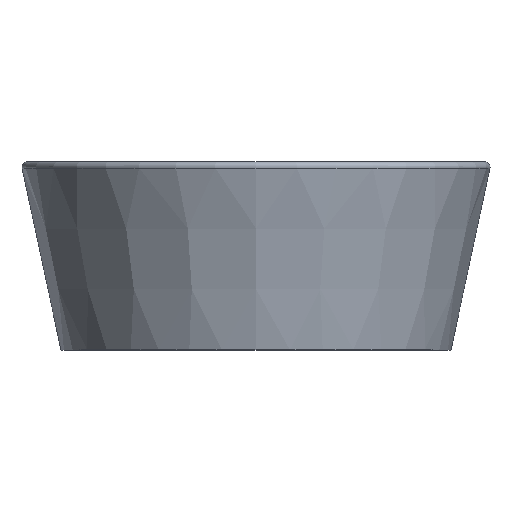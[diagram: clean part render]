
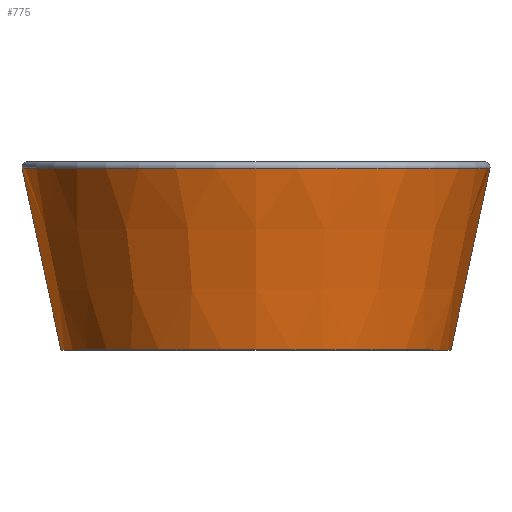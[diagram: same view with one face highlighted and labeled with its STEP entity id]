
A CAD part, top view. The second image highlights one B-rep face of the part: STEP entity #775.
In plain terms, the highlighted conical face has half-angle 12.095 degrees and reference radius 175 mm.
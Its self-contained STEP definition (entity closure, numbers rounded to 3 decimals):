
#12 = CARTESIAN_POINT ( 'NONE',  ( 0., 0., 0. ) ) ;
#57 = DIRECTION ( 'NONE',  ( 0., 1., 0. ) ) ;
#184 = CARTESIAN_POINT ( 'NONE',  ( 175., 0., 0. ) ) ;
#224 = CARTESIAN_POINT ( 'NONE',  ( 0., -4.838, 0. ) ) ;
#242 = AXIS2_PLACEMENT_3D ( 'NONE', #12, #945, #848 ) ;
#266 = ORIENTED_EDGE ( 'NONE', *, *, #878, .F. ) ;
#267 = VECTOR ( 'NONE', #575, 1000. ) ;
#275 = EDGE_LOOP ( 'NONE', ( #343, #431, #395, #266 ) ) ;
#280 = VERTEX_POINT ( 'NONE', #592 ) ;
#299 = LINE ( 'NONE', #656, #267 ) ;
#343 = ORIENTED_EDGE ( 'NONE', *, *, #1173, .T. ) ;
#392 = AXIS2_PLACEMENT_3D ( 'NONE', #888, #57, #442 ) ;
#395 = ORIENTED_EDGE ( 'NONE', *, *, #1047, .T. ) ;
#396 = FACE_OUTER_BOUND ( 'NONE', #275, .T. ) ;
#431 = ORIENTED_EDGE ( 'NONE', *, *, #799, .T. ) ;
#442 = DIRECTION ( 'NONE',  ( -1., 0., 0. ) ) ;
#455 = LINE ( 'NONE', #184, #860 ) ;
#575 = DIRECTION ( 'NONE',  ( -0.21, 0.978, 0. ) ) ;
#589 = CARTESIAN_POINT ( 'NONE',  ( 173.963, -4.838, 0. ) ) ;
#592 = CARTESIAN_POINT ( 'NONE',  ( 145., -140., 0. ) ) ;
#594 = VERTEX_POINT ( 'NONE', #1041 ) ;
#607 = DIRECTION ( 'NONE',  ( 0., -1., 0. ) ) ;
#656 = CARTESIAN_POINT ( 'NONE',  ( -175., 0., 0. ) ) ;
#661 = DIRECTION ( 'NONE',  ( 0.21, 0.978, 0. ) ) ;
#681 = CARTESIAN_POINT ( 'NONE',  ( -173.963, -4.838, 0. ) ) ;
#726 = CIRCLE ( 'NONE', #947, 173.963 ) ;
#765 = CONICAL_SURFACE ( 'NONE', #242, 175., 0.211 ) ;
#775 = ADVANCED_FACE ( 'NONE', ( #396 ), #765, .T. ) ;
#782 = DIRECTION ( 'NONE',  ( 1., 0., 0. ) ) ;
#799 = EDGE_CURVE ( 'NONE', #280, #899, #455, .T. ) ;
#848 = DIRECTION ( 'NONE',  ( -1., 0., 0. ) ) ;
#860 = VECTOR ( 'NONE', #661, 1000. ) ;
#878 = EDGE_CURVE ( 'NONE', #594, #1022, #299, .T. ) ;
#888 = CARTESIAN_POINT ( 'NONE',  ( 0., -140., 0. ) ) ;
#899 = VERTEX_POINT ( 'NONE', #589 ) ;
#945 = DIRECTION ( 'NONE',  ( 0., 1., 0. ) ) ;
#947 = AXIS2_PLACEMENT_3D ( 'NONE', #224, #607, #782 ) ;
#1022 = VERTEX_POINT ( 'NONE', #681 ) ;
#1041 = CARTESIAN_POINT ( 'NONE',  ( -145., -140., 0. ) ) ;
#1047 = EDGE_CURVE ( 'NONE', #899, #1022, #726, .T. ) ;
#1173 = EDGE_CURVE ( 'NONE', #594, #280, #1207, .T. ) ;
#1207 = CIRCLE ( 'NONE', #392, 145. ) ;
